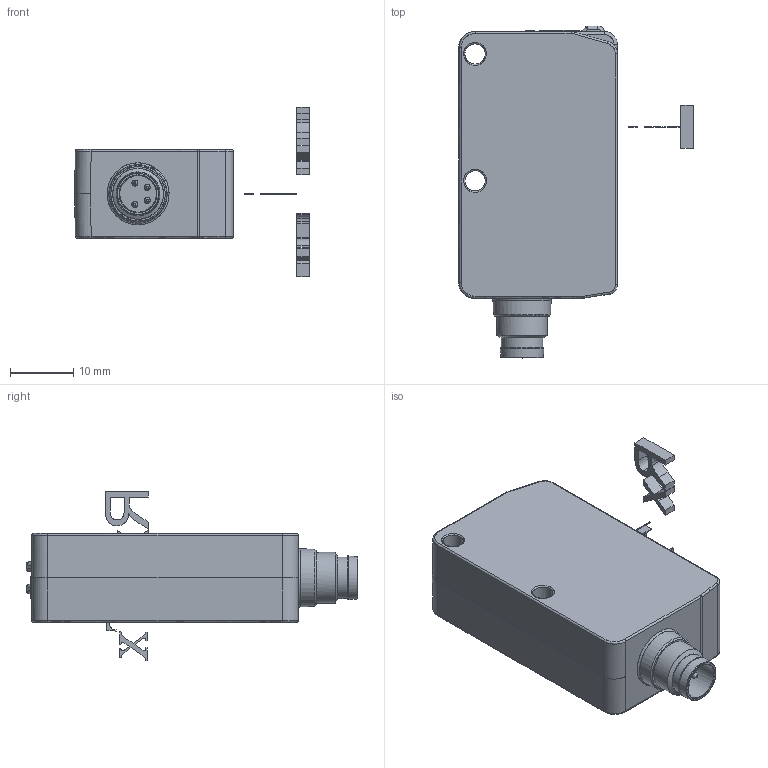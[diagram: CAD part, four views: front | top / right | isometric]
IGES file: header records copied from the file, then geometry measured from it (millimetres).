
Start section: JAMA-IS VERSION  1.0
Global section: file name: D:\CS\IDF\TESTPCB\DSD-0142.igs; native system: NX V12.0; preprocessor: SIEMENS PLM Software NX 12.0; date: 200922.101511; units: millimetre
Bounding box: 37 x 52.3 x 26.68 mm (x, y, z)
Surface area: 5122.3 mm2 (no closed solid volume)
Topology: 0 solids, 0 shells, 457 faces, 2703 edges, 2655 vertices
Faces by surface type: bspline 457
